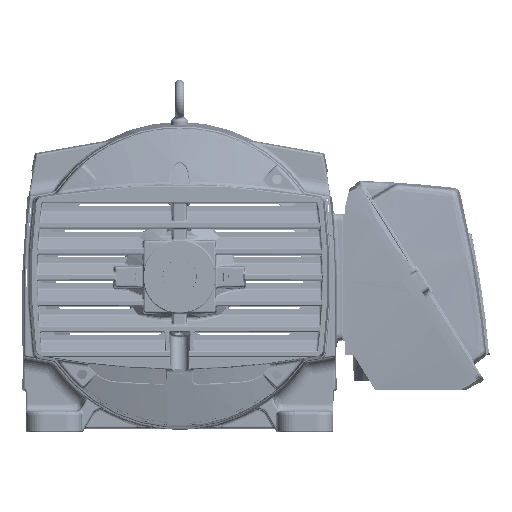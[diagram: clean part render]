
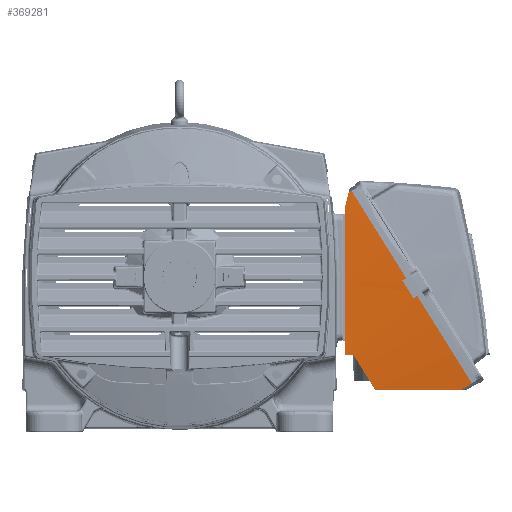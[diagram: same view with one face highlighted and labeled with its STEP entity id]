
A CAD part, top view. The second image highlights one B-rep face of the part: STEP entity #369281.
In plain terms, the highlighted conical face has half-angle 2 degrees and reference radius 1679.31 mm.
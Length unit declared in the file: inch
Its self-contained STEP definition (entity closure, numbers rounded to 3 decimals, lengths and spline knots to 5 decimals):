
#366957=CARTESIAN_POINT('',(-4.99664,6.4701,
5.28443));
#366959=CARTESIAN_POINT('',(-4.99664,6.4701,
5.28443));
#366960=CARTESIAN_POINT('',(-5.09171,6.08879,
5.30828));
#366961=CARTESIAN_POINT('',(-5.18681,5.70738,
5.33041));
#366962=CARTESIAN_POINT('',(-5.28193,5.32589,
5.35085));
#367024=CARTESIAN_POINT('',(-4.78997,6.60878,
5.29218));
#367025=CARTESIAN_POINT('',(-4.85886,6.56256,
5.2896));
#367026=CARTESIAN_POINT('',(-4.92775,6.51633,
5.28702));
#367027=CARTESIAN_POINT('',(-4.99664,6.4701,
5.28443));
#367238=DIRECTION('',(0.848,0.53,0.035));
#367239=VECTOR('',#367238,0.3202);
#367240=CARTESIAN_POINT('',(-1.14372,0.16971,
5.77924));
#367241=LINE('',#367240,#367239);
#367262=DIRECTION('',(-0.848,-0.53,
-0.035));
#367263=VECTOR('',#367262,0.3202);
#367264=CARTESIAN_POINT('',(-0.07747,-0.93279,
5.79042));
#367265=LINE('',#367264,#367263);
#367305=CARTESIAN_POINT('',(-0.47491,-0.29675,
-60.43578));
#367306=DIRECTION('',(0.848,0.53,0.));
#367307=DIRECTION('',(-0.065,0.104,0.992));
#367308=AXIS2_PLACEMENT_3D('',#367305,#367306,#367307);
#367354=CARTESIAN_POINT('',(-0.47491,-0.29675,
-60.43578));
#367355=DIRECTION('',(0.848,0.53,0.));
#367356=DIRECTION('',(0.006,-0.01,1.));
#367357=AXIS2_PLACEMENT_3D('',#367354,#367355,#367356);
#367417=CARTESIAN_POINT('',(3.84015,-7.20229,
5.29218));
#367418=CARTESIAN_POINT('',(3.58895,-7.34813,
5.28314));
#367419=CARTESIAN_POINT('',(3.33775,-7.49396,
5.27409));
#367420=CARTESIAN_POINT('',(3.08655,-7.63979,
5.26504));
#367451=CARTESIAN_POINT('',(-0.74628,-0.46633,
-60.43578));
#367452=DIRECTION('',(0.848,0.53,0.));
#367453=DIRECTION('',(-0.006,0.01,1.));
#367454=AXIS2_PLACEMENT_3D('',#367451,#367452,#367453);
#367534=CARTESIAN_POINT('',(-5.28193,5.32589,
5.35085));
#367535=CARTESIAN_POINT('',(-5.28193,1.84102,
5.6146));
#367536=CARTESIAN_POINT('',(-5.28193,-1.64755,
5.6789));
#367537=CARTESIAN_POINT('',(-5.28193,-5.13979,
5.54425));
#367564=CARTESIAN_POINT('',(-5.28193,-5.13979,
5.54425));
#367565=CARTESIAN_POINT('',(-5.07193,-5.13979,
5.54784));
#367566=CARTESIAN_POINT('',(-4.86193,-5.13979,
5.55115));
#367567=CARTESIAN_POINT('',(-4.65193,-5.13979,
5.55418));
#367595=CARTESIAN_POINT('',(-5.6554,-3.53389,
-60.43578));
#367596=DIRECTION('',(0.848,0.53,0.));
#367597=DIRECTION('',(0.015,-0.024,1.));
#367598=AXIS2_PLACEMENT_3D('',#367595,#367596,#367597);
#367619=CARTESIAN_POINT('',(-3.08975,-7.63979,
5.40356));
#367620=CARTESIAN_POINT('',(-1.03038,-7.63979,
5.38447));
#367621=CARTESIAN_POINT('',(1.02839,-7.63979,
5.33833));
#367622=CARTESIAN_POINT('',(3.08655,-7.63979,
5.26504));
#367624=CARTESIAN_POINT('',(3.08655,-7.63979,
5.26504));
#368555=CARTESIAN_POINT('',(-0.87235,0.33928,
5.79042));
#368557=VERTEX_POINT('',#368555);
#368559=CARTESIAN_POINT('',(-0.07747,-0.93279,
5.79042));
#368561=VERTEX_POINT('',#368559);
#368574=CARTESIAN_POINT('',(-1.14372,0.16971,
5.77924));
#368575=VERTEX_POINT('',#368574);
#368576=CARTESIAN_POINT('',(-0.34884,-1.10237,
5.77924));
#368577=VERTEX_POINT('',#368576);
#368630=VERTEX_POINT('',#366957);
#368632=VERTEX_POINT('',#366962);
#368634=VERTEX_POINT('',#367537);
#368636=VERTEX_POINT('',#367567);
#368639=CARTESIAN_POINT('',(-3.08975,-7.63979,
5.40356));
#368640=VERTEX_POINT('',#368639);
#368642=VERTEX_POINT('',#367624);
#368676=CARTESIAN_POINT('',(-4.78997,6.60878,
5.29218));
#368678=VERTEX_POINT('',#368676);
#368679=CARTESIAN_POINT('',(3.84015,-7.20229,
5.29218));
#368681=VERTEX_POINT('',#368679);
#369257=CARTESIAN_POINT('',(-3.2917,-2.05688,
-60.43578));
#369258=DIRECTION('',(0.848,0.53,0.));
#369259=DIRECTION('',(0.,0.,-1.));
#369260=AXIS2_PLACEMENT_3D('',#369257,#369258,#369259);
#369261=CONICAL_SURFACE('',#369260,66.11446,2.);
#369263=ORIENTED_EDGE('',*,*,#369262,.T.);
#369264=ORIENTED_EDGE('',*,*,#369062,.F.);
#369265=ORIENTED_EDGE('',*,*,#369216,.T.);
#369266=ORIENTED_EDGE('',*,*,#369154,.T.);
#369268=ORIENTED_EDGE('',*,*,#369267,.F.);
#369270=ORIENTED_EDGE('',*,*,#369269,.F.);
#369272=ORIENTED_EDGE('',*,*,#369271,.F.);
#369274=ORIENTED_EDGE('',*,*,#369273,.F.);
#369275=ORIENTED_EDGE('',*,*,#368866,.F.);
#369276=ORIENTED_EDGE('',*,*,#368898,.F.);
#369277=ORIENTED_EDGE('',*,*,#369196,.T.);
#369278=ORIENTED_EDGE('',*,*,#369029,.F.);
#369279=EDGE_LOOP('',(#369263,#369264,#369265,#369266,#369268,#369270,#369272,
#369274,#369275,#369276,#369277,#369278));
#369280=FACE_OUTER_BOUND('',#369279,.F.);
#369281=ADVANCED_FACE('',(#369280),#369261,.T.);
#366963=B_SPLINE_CURVE_WITH_KNOTS('',3,(#366959,#366960,#366961,#366962),
.UNSPECIFIED.,.F.,.F.,(4,4),(0.,1.),.UNSPECIFIED.);
#367028=B_SPLINE_CURVE_WITH_KNOTS('',3,(#367024,#367025,#367026,#367027),
.UNSPECIFIED.,.F.,.F.,(4,4),(0.,1.),.UNSPECIFIED.);
#367309=CIRCLE('',#367308,66.23044);
#367358=CIRCLE('',#367357,66.23044);
#367421=B_SPLINE_CURVE_WITH_KNOTS('',3,(#367417,#367418,#367419,#367420),
.UNSPECIFIED.,.F.,.F.,(4,4),(0.,1.),.UNSPECIFIED.);
#367455=CIRCLE('',#367454,66.21927);
#367538=B_SPLINE_CURVE_WITH_KNOTS('',3,(#367534,#367535,#367536,#367537),
.UNSPECIFIED.,.F.,.F.,(4,4),(0.,1.),.UNSPECIFIED.);
#367568=B_SPLINE_CURVE_WITH_KNOTS('',3,(#367564,#367565,#367566,#367567),
.UNSPECIFIED.,.F.,.F.,(4,4),(0.,1.),.UNSPECIFIED.);
#367599=CIRCLE('',#367598,66.01712);
#367623=B_SPLINE_CURVE_WITH_KNOTS('',3,(#367619,#367620,#367621,#367622),
.UNSPECIFIED.,.F.,.F.,(4,4),(0.,1.),.UNSPECIFIED.);
#368866=EDGE_CURVE('',#368630,#368632,#366963,.T.);
#368898=EDGE_CURVE('',#368678,#368630,#367028,.T.);
#369029=EDGE_CURVE('',#368575,#368557,#367241,.T.);
#369062=EDGE_CURVE('',#368561,#368577,#367265,.T.);
#369154=EDGE_CURVE('',#368681,#368642,#367421,.T.);
#369196=EDGE_CURVE('',#368678,#368557,#367309,.T.);
#369216=EDGE_CURVE('',#368561,#368681,#367358,.T.);
#369262=EDGE_CURVE('',#368575,#368577,#367455,.T.);
#369267=EDGE_CURVE('',#368640,#368642,#367623,.T.);
#369269=EDGE_CURVE('',#368636,#368640,#367599,.T.);
#369271=EDGE_CURVE('',#368634,#368636,#367568,.T.);
#369273=EDGE_CURVE('',#368632,#368634,#367538,.T.);
